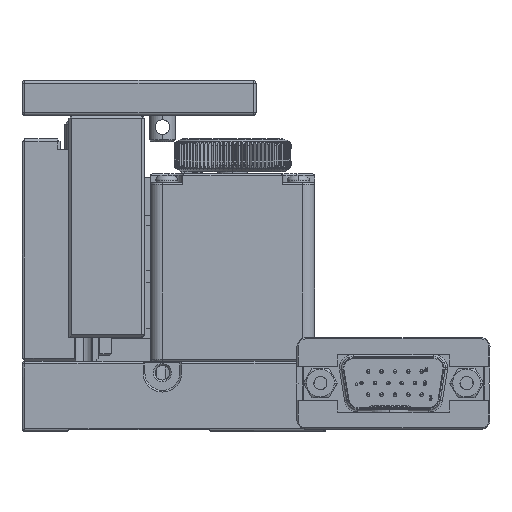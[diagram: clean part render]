
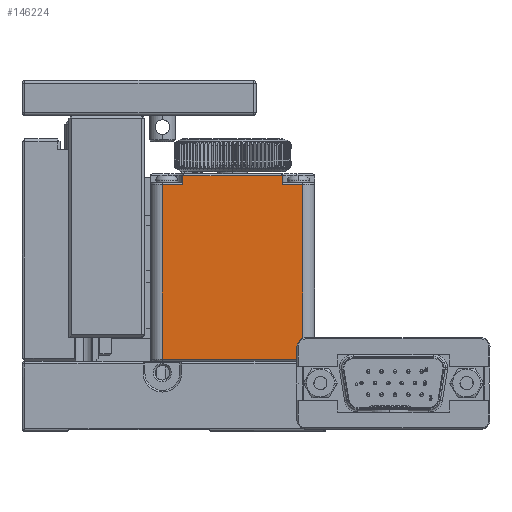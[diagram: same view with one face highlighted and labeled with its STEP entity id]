
A CAD part, top view. The second image highlights one B-rep face of the part: STEP entity #146224.
In plain terms, the highlighted planar face has unit normal (0, 0, 1).
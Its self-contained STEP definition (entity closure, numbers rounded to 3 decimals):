
#2625 = VECTOR ( 'NONE', #21561, 1000. ) ;
#2807 = EDGE_CURVE ( 'NONE', #46132, #146474, #133553, .T. ) ;
#6819 = EDGE_CURVE ( 'NONE', #39739, #104194, #8422, .T. ) ;
#7340 = DIRECTION ( 'NONE',  ( 1., 0., 0. ) ) ;
#8422 = LINE ( 'NONE', #98904, #47410 ) ;
#10793 = CARTESIAN_POINT ( 'NONE',  ( -2., 0.3, 19. ) ) ;
#10895 = VERTEX_POINT ( 'NONE', #141209 ) ;
#20462 = VECTOR ( 'NONE', #54125, 1000. ) ;
#20648 = LINE ( 'NONE', #43821, #27804 ) ;
#21561 = DIRECTION ( 'NONE',  ( 1., 0., 0. ) ) ;
#27804 = VECTOR ( 'NONE', #32419, 1000. ) ;
#28554 = LINE ( 'NONE', #79448, #136595 ) ;
#32278 = VECTOR ( 'NONE', #101648, 1000. ) ;
#32419 = DIRECTION ( 'NONE',  ( 0., -1., 0. ) ) ;
#36081 = CARTESIAN_POINT ( 'NONE',  ( 18.5, 30.2, 19. ) ) ;
#39739 = VERTEX_POINT ( 'NONE', #49332 ) ;
#42935 = CARTESIAN_POINT ( 'NONE',  ( -2., 16., 19. ) ) ;
#43418 = DIRECTION ( 'NONE',  ( 0., -1., 0. ) ) ;
#43821 = CARTESIAN_POINT ( 'NONE',  ( 18.5, 30.95, 19. ) ) ;
#45262 = CARTESIAN_POINT ( 'NONE',  ( 10., 30.2, 19. ) ) ;
#45511 = AXIS2_PLACEMENT_3D ( 'NONE', #143668, #107440, #7340 ) ;
#46132 = VERTEX_POINT ( 'NONE', #104547 ) ;
#46853 = DIRECTION ( 'NONE',  ( 1., 0., 0. ) ) ;
#47410 = VECTOR ( 'NONE', #121251, 1000. ) ;
#49332 = CARTESIAN_POINT ( 'NONE',  ( 22., 0.3, 19. ) ) ;
#49949 = FACE_OUTER_BOUND ( 'NONE', #69361, .T. ) ;
#53010 = VERTEX_POINT ( 'NONE', #130218 ) ;
#54125 = DIRECTION ( 'NONE',  ( -1., 0., 0. ) ) ;
#61150 = EDGE_CURVE ( 'NONE', #10895, #53010, #65885, .T. ) ;
#63033 = ORIENTED_EDGE ( 'NONE', *, *, #136991, .T. ) ;
#65317 = ORIENTED_EDGE ( 'NONE', *, *, #107442, .T. ) ;
#65885 = LINE ( 'NONE', #100663, #32278 ) ;
#69361 = EDGE_LOOP ( 'NONE', ( #92220, #118259, #63033, #69939, #73093, #128471, #65317, #141995 ) ) ;
#69939 = ORIENTED_EDGE ( 'NONE', *, *, #118348, .F. ) ;
#72126 = CARTESIAN_POINT ( 'NONE',  ( 22., 30.2, 19. ) ) ;
#73093 = ORIENTED_EDGE ( 'NONE', *, *, #137279, .F. ) ;
#73551 = EDGE_CURVE ( 'NONE', #146474, #39739, #28554, .T. ) ;
#74767 = VERTEX_POINT ( 'NONE', #36081 ) ;
#76705 = VECTOR ( 'NONE', #43418, 1000. ) ;
#78414 = CARTESIAN_POINT ( 'NONE',  ( 9.999, 31.7, 19. ) ) ;
#79316 = DIRECTION ( 'NONE',  ( -1., 0., 0. ) ) ;
#79448 = CARTESIAN_POINT ( 'NONE',  ( 10., 0.3, 19. ) ) ;
#81443 = CARTESIAN_POINT ( 'NONE',  ( 18.5, 31.7, 19. ) ) ;
#85599 = PLANE ( 'NONE',  #45511 ) ;
#86871 = VECTOR ( 'NONE', #79316, 1000. ) ;
#92220 = ORIENTED_EDGE ( 'NONE', *, *, #73551, .T. ) ;
#93084 = LINE ( 'NONE', #78414, #2625 ) ;
#98904 = CARTESIAN_POINT ( 'NONE',  ( 22., 16., 19. ) ) ;
#100663 = CARTESIAN_POINT ( 'NONE',  ( 1.5, 16., 19. ) ) ;
#101648 = DIRECTION ( 'NONE',  ( 0., -1., 0. ) ) ;
#102601 = VERTEX_POINT ( 'NONE', #81443 ) ;
#104194 = VERTEX_POINT ( 'NONE', #72126 ) ;
#104547 = CARTESIAN_POINT ( 'NONE',  ( -2., 30.2, 19. ) ) ;
#107440 = DIRECTION ( 'NONE',  ( 0., 0., 1. ) ) ;
#107442 = EDGE_CURVE ( 'NONE', #53010, #46132, #113466, .T. ) ;
#108995 = LINE ( 'NONE', #122053, #20462 ) ;
#113466 = LINE ( 'NONE', #45262, #86871 ) ;
#118259 = ORIENTED_EDGE ( 'NONE', *, *, #6819, .T. ) ;
#118348 = EDGE_CURVE ( 'NONE', #102601, #74767, #20648, .T. ) ;
#121251 = DIRECTION ( 'NONE',  ( 0., 1., 0. ) ) ;
#122053 = CARTESIAN_POINT ( 'NONE',  ( 10., 30.2, 19. ) ) ;
#128471 = ORIENTED_EDGE ( 'NONE', *, *, #61150, .T. ) ;
#130218 = CARTESIAN_POINT ( 'NONE',  ( 1.5, 30.2, 19. ) ) ;
#133553 = LINE ( 'NONE', #42935, #76705 ) ;
#136595 = VECTOR ( 'NONE', #46853, 1000. ) ;
#136991 = EDGE_CURVE ( 'NONE', #104194, #74767, #108995, .T. ) ;
#137279 = EDGE_CURVE ( 'NONE', #10895, #102601, #93084, .T. ) ;
#141209 = CARTESIAN_POINT ( 'NONE',  ( 1.5, 31.7, 19. ) ) ;
#141995 = ORIENTED_EDGE ( 'NONE', *, *, #2807, .T. ) ;
#143668 = CARTESIAN_POINT ( 'NONE',  ( -2., 0.3, 19. ) ) ;
#146224 = ADVANCED_FACE ( 'NONE', ( #49949 ), #85599, .T. ) ;
#146474 = VERTEX_POINT ( 'NONE', #10793 ) ;
